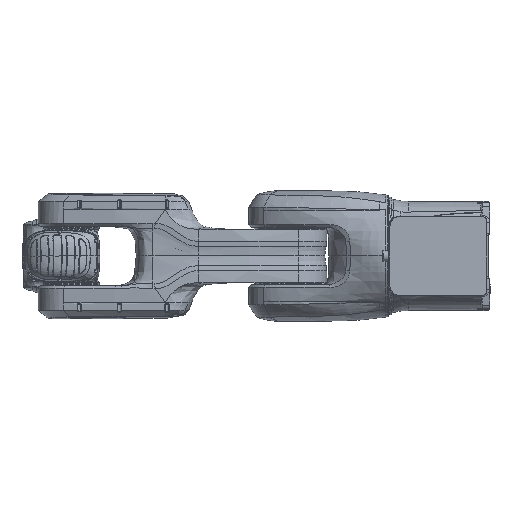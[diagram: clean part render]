
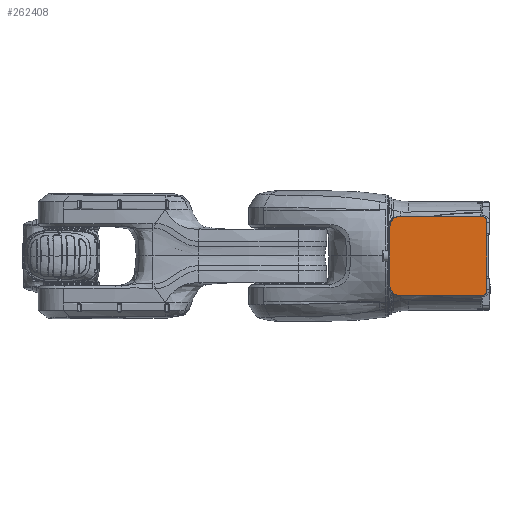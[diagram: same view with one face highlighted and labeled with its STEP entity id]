
A CAD part, left-side view. The second image highlights one B-rep face of the part: STEP entity #262408.
In plain terms, the highlighted planar face has unit normal (-1, 0, 0).
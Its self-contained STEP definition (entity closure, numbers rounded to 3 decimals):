
#17870 = VERTEX_POINT ( 'NONE', #23498 ) ;
#23032 = VECTOR ( 'NONE', #178148, 1000. ) ;
#23498 = CARTESIAN_POINT ( 'NONE',  ( -165., 173., 77.5 ) ) ;
#25263 = CARTESIAN_POINT ( 'NONE',  ( -165., 174.309, -77.5 ) ) ;
#26731 = LINE ( 'NONE', #78237, #64813 ) ;
#27623 = CARTESIAN_POINT ( 'NONE',  ( -165., 13., 77.5 ) ) ;
#30495 = CARTESIAN_POINT ( 'NONE',  ( -165., 181.863, -75.477 ) ) ;
#30829 = AXIS2_PLACEMENT_3D ( 'NONE', #245108, #45124, #101923 ) ;
#31965 = DIRECTION ( 'NONE',  ( 0., -1., 0. ) ) ;
#40033 = CARTESIAN_POINT ( 'NONE',  ( -165., 193., -57.5 ) ) ;
#44140 = CARTESIAN_POINT ( 'NONE',  ( -165., 189.785, 68.608 ) ) ;
#45124 = DIRECTION ( 'NONE',  ( 1., 0., 0. ) ) ;
#46403 = EDGE_CURVE ( 'NONE', #192047, #269681, #176909, .T. ) ;
#47639 = CARTESIAN_POINT ( 'NONE',  ( -165., 191.747, 64.887 ) ) ;
#50106 = CARTESIAN_POINT ( 'NONE',  ( -165., 191.979, -63.944 ) ) ;
#52291 = ORIENTED_EDGE ( 'NONE', *, *, #101420, .F. ) ;
#57669 = CARTESIAN_POINT ( 'NONE',  ( -165., -3., -77.5 ) ) ;
#60720 = CIRCLE ( 'NONE', #264922, 10. ) ;
#64769 = VERTEX_POINT ( 'NONE', #154304 ) ;
#64813 = VECTOR ( 'NONE', #31965, 1000. ) ;
#70001 = CARTESIAN_POINT ( 'NONE',  ( -165., 3., 0. ) ) ;
#76748 = CARTESIAN_POINT ( 'NONE',  ( -165., 193., -58.809 ) ) ;
#78237 = CARTESIAN_POINT ( 'NONE',  ( -165., 3., 77.5 ) ) ;
#78868 = VERTEX_POINT ( 'NONE', #349354 ) ;
#84904 = CIRCLE ( 'NONE', #170042, 10. ) ;
#85925 = VECTOR ( 'NONE', #283041, 1000. ) ;
#86348 = VERTEX_POINT ( 'NONE', #27623 ) ;
#89731 = ORIENTED_EDGE ( 'NONE', *, *, #309259, .F. ) ;
#93412 = CARTESIAN_POINT ( 'NONE',  ( -165., 3., 67.5 ) ) ;
#98144 = CARTESIAN_POINT ( 'NONE',  ( -165., 185.207, -73.397 ) ) ;
#101420 = EDGE_CURVE ( 'NONE', #192047, #293754, #226170, .T. ) ;
#101923 = DIRECTION ( 'NONE',  ( 0., 0., -1. ) ) ;
#102683 = CARTESIAN_POINT ( 'NONE',  ( -165., 192.899, 59.592 ) ) ;
#115693 = ORIENTED_EDGE ( 'NONE', *, *, #210823, .F. ) ;
#117087 = DIRECTION ( 'NONE',  ( 1., 0., 0. ) ) ;
#119291 = CARTESIAN_POINT ( 'NONE',  ( -165., 173., 77.5 ) ) ;
#124775 = CARTESIAN_POINT ( 'NONE',  ( -165., 13., 67.5 ) ) ;
#129358 = CARTESIAN_POINT ( 'NONE',  ( -165., 192.602, 61.842 ) ) ;
#134468 = ORIENTED_EDGE ( 'NONE', *, *, #288754, .F. ) ;
#135448 = VERTEX_POINT ( 'NONE', #93412 ) ;
#138837 = CARTESIAN_POINT ( 'NONE',  ( -165., 178.194, -76.858 ) ) ;
#150778 = B_SPLINE_CURVE_WITH_KNOTS ( 'NONE', 3,
 ( #315616, #344007, #287285, #102683, #129358, #47639, #44140, #170815, #280783, #333985, #335720, #279043, #237545, #180774, #119291 ),
 .UNSPECIFIED., .F., .F.,
 ( 4, 1, 1, 1, 1, 1, 1, 1, 1, 1, 1, 1, 4 ),
 ( 0., 0.033, 0.067, 0.1, 0.25, 0.367, 0.5, 0.633, 0.75, 0.9, 0.933, 0.967, 1. ),
 .UNSPECIFIED. ) ;
#154304 = CARTESIAN_POINT ( 'NONE',  ( -165., 3., -67.5 ) ) ;
#158443 = CARTESIAN_POINT ( 'NONE',  ( -165., 190.361, -67.515 ) ) ;
#161950 = CARTESIAN_POINT ( 'NONE',  ( -165., 173., -77.5 ) ) ;
#170042 = AXIS2_PLACEMENT_3D ( 'NONE', #124775, #318059, #264873 ) ;
#170815 = CARTESIAN_POINT ( 'NONE',  ( -165., 187.247, 71.747 ) ) ;
#176909 = B_SPLINE_CURVE_WITH_KNOTS ( 'NONE', 3,
 ( #319855, #76748, #185009, #259670, #50106, #348212, #158443, #204600, #286254, #341206, #98144, #275418, #30495, #326850, #138837, #323347, #25263, #161950 ),
 .UNSPECIFIED., .F., .F.,
 ( 4, 2, 2, 2, 2, 2, 2, 2, 4 ),
 ( 0., 0.125, 0.25, 0.375, 0.5, 0.625, 0.75, 0.875, 1. ),
 .UNSPECIFIED. ) ;
#178148 = DIRECTION ( 'NONE',  ( 0., 0., 1. ) ) ;
#180774 = CARTESIAN_POINT ( 'NONE',  ( -165., 173.349, 77.5 ) ) ;
#182505 = CARTESIAN_POINT ( 'NONE',  ( -165., 173., -77.5 ) ) ;
#185009 = CARTESIAN_POINT ( 'NONE',  ( -165., 192.872, -60.109 ) ) ;
#191409 = EDGE_CURVE ( 'NONE', #64769, #78868, #60720, .T. ) ;
#191698 = CARTESIAN_POINT ( 'NONE',  ( -165., 13., -67.5 ) ) ;
#192047 = VERTEX_POINT ( 'NONE', #40033 ) ;
#199540 = LINE ( 'NONE', #57669, #288928 ) ;
#201506 = EDGE_LOOP ( 'NONE', ( #304506, #233834, #89731, #52291, #204570, #134468, #237808, #115693 ) ) ;
#204570 = ORIENTED_EDGE ( 'NONE', *, *, #46403, .T. ) ;
#204600 = CARTESIAN_POINT ( 'NONE',  ( -165., 188.897, -69.707 ) ) ;
#210823 = EDGE_CURVE ( 'NONE', #135448, #64769, #228029, .T. ) ;
#221784 = DIRECTION ( 'NONE',  ( 0., 0., 1. ) ) ;
#226170 = LINE ( 'NONE', #337887, #23032 ) ;
#228029 = LINE ( 'NONE', #70001, #85925 ) ;
#233834 = ORIENTED_EDGE ( 'NONE', *, *, #303528, .F. ) ;
#237545 = CARTESIAN_POINT ( 'NONE',  ( -165., 174.047, 77.482 ) ) ;
#237808 = ORIENTED_EDGE ( 'NONE', *, *, #191409, .F. ) ;
#238857 = EDGE_CURVE ( 'NONE', #86348, #135448, #84904, .T. ) ;
#245108 = CARTESIAN_POINT ( 'NONE',  ( -165., -3., 0. ) ) ;
#259670 = CARTESIAN_POINT ( 'NONE',  ( -165., 192.358, -62.694 ) ) ;
#262408 = ADVANCED_FACE ( 'NONE', ( #288272 ), #293507, .F. ) ;
#264873 = DIRECTION ( 'NONE',  ( 0., 0., 1. ) ) ;
#264922 = AXIS2_PLACEMENT_3D ( 'NONE', #191698, #117087, #221784 ) ;
#269681 = VERTEX_POINT ( 'NONE', #182505 ) ;
#274220 = DIRECTION ( 'NONE',  ( 0., 1., 0. ) ) ;
#275418 = CARTESIAN_POINT ( 'NONE',  ( -165., 183.015, -74.861 ) ) ;
#279043 = CARTESIAN_POINT ( 'NONE',  ( -165., 175.091, 77.399 ) ) ;
#280783 = CARTESIAN_POINT ( 'NONE',  ( -165., 184.108, 74.285 ) ) ;
#283041 = DIRECTION ( 'NONE',  ( 0., 0., -1. ) ) ;
#286254 = CARTESIAN_POINT ( 'NONE',  ( -165., 188.068, -70.717 ) ) ;
#287285 = CARTESIAN_POINT ( 'NONE',  ( -165., 192.981, 58.547 ) ) ;
#288272 = FACE_OUTER_BOUND ( 'NONE', #201506, .T. ) ;
#288754 = EDGE_CURVE ( 'NONE', #78868, #269681, #199540, .T. ) ;
#288928 = VECTOR ( 'NONE', #274220, 1000. ) ;
#293507 = PLANE ( 'NONE',  #30829 ) ;
#293754 = VERTEX_POINT ( 'NONE', #338485 ) ;
#303528 = EDGE_CURVE ( 'NONE', #17870, #86348, #26731, .T. ) ;
#304506 = ORIENTED_EDGE ( 'NONE', *, *, #238857, .F. ) ;
#309259 = EDGE_CURVE ( 'NONE', #293754, #17870, #150778, .T. ) ;
#315616 = CARTESIAN_POINT ( 'NONE',  ( -165., 193., 57.5 ) ) ;
#318059 = DIRECTION ( 'NONE',  ( 1., 0., 0. ) ) ;
#319855 = CARTESIAN_POINT ( 'NONE',  ( -165., 193., -57.5 ) ) ;
#323347 = CARTESIAN_POINT ( 'NONE',  ( -165., 175.61, -77.371 ) ) ;
#326850 = CARTESIAN_POINT ( 'NONE',  ( -165., 179.445, -76.479 ) ) ;
#333985 = CARTESIAN_POINT ( 'NONE',  ( -165., 180.387, 76.247 ) ) ;
#335720 = CARTESIAN_POINT ( 'NONE',  ( -165., 177.342, 77.102 ) ) ;
#337887 = CARTESIAN_POINT ( 'NONE',  ( -165., 193., 77.5 ) ) ;
#338485 = CARTESIAN_POINT ( 'NONE',  ( -165., 193., 57.5 ) ) ;
#341206 = CARTESIAN_POINT ( 'NONE',  ( -165., 186.217, -72.568 ) ) ;
#344007 = CARTESIAN_POINT ( 'NONE',  ( -165., 193., 57.849 ) ) ;
#348212 = CARTESIAN_POINT ( 'NONE',  ( -165., 190.977, -66.363 ) ) ;
#349354 = CARTESIAN_POINT ( 'NONE',  ( -165., 13., -77.5 ) ) ;
